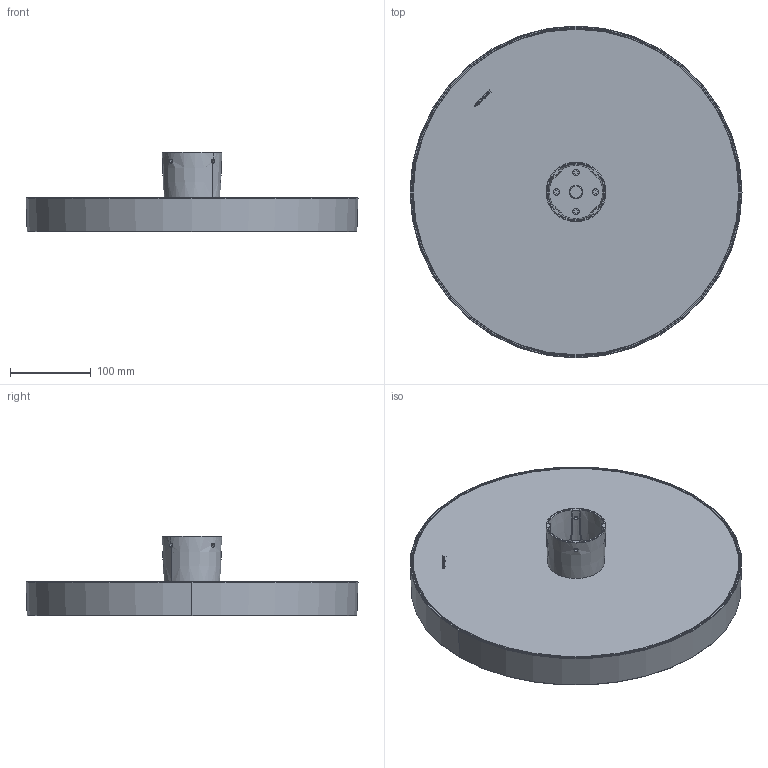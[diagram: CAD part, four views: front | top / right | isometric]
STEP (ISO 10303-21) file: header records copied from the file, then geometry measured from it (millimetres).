
FILE_DESCRIPTION((''),'2;1');
FILE_NAME('ON-OFF-360__PRES_CREP_SW0001','2025-07-24T14:18:47',('Piccioli'),(''),'CREO PARAMETRIC BY PTC INC, 2025010','CREO PARAMETRIC BY PTC INC, 2025010','');
FILE_SCHEMA(('CONFIG_CONTROL_DESIGN'));
Length unit declared in the file: millimetre
Products named in the file (1): ON-OFF-360__PRES_CREP_SW0001
Bounding box: 409.96 x 409.96 x 98 mm (x, y, z)
Surface area: 542513.2 mm2 (no closed solid volume)
Topology: 0 solids, 95 shells, 140 faces, 1036 edges, 989 vertices
Faces by surface type: plane 92, cone 22, torus 14, cylinder 12
Entity records: 13463 total; most frequent: CARTESIAN_POINT 6304, DIRECTION 1382, ORIENTED_EDGE 1123, EDGE_CURVE 1036, VERTEX_POINT 989, AXIS2_PLACEMENT_3D 506, VECTOR 370, LINE 370
